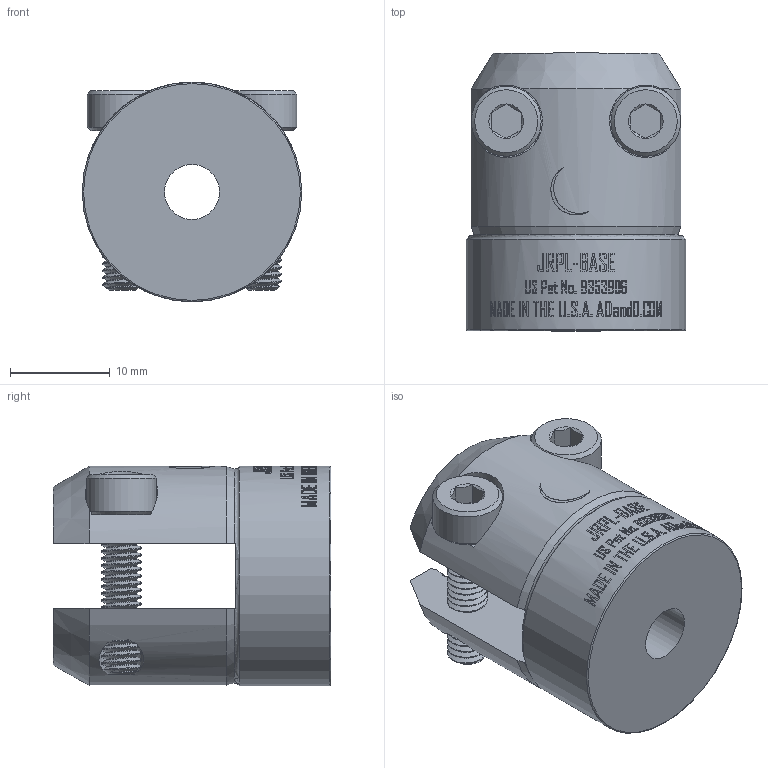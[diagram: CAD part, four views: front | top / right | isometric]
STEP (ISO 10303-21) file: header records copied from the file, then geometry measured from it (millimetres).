
FILE_DESCRIPTION(/* description */ ('JRPL BASE'),/* implementation_level */ '2;1');
FILE_NAME(/* name */ 'C:\Users\Shayne Riley\Documents\Vault\AD&D\Design Files\Pop-Link\JRPL Series Assemblies\JRPL-BASE.stp',/* time_stamp */ '2020-11-18T09:50:51-05:00',/* author */ ('Shayne Riley'),/* organization */ (''),/* preprocessor_version */ 'ST-DEVELOPER v18.1',/* originating_system */ 'Autodesk Inventor 2021',/* authorisation */ '');
FILE_SCHEMA (('AUTOMOTIVE_DESIGN { 1 0 10303 214 3 1 1 }'));
Length unit declared in the file: inch
Products named in the file (3): JRPL-BASE; 60263; 60262
Assembly tree (3 placements, depth 2):
  JRPL-BASE
    60263
    60262  x2
Bounding box: 21.96 x 27.79 x 21.96 mm (x, y, z)
Volume: 7040 mm3; surface area: 4434.2 mm2
Topology: 3 solids, 3 shells, 911 faces, 2472 edges, 1639 vertices
Faces by surface type: plane 494, bspline 193, cylinder 185, cone 25, torus 8, sphere 6
Full cylindrical faces by diameter (mm): 3.091 x44, 3.242 x2, 4 x44, 4.254 x2, 5.512 x1, 7 x2, 10.008 x1, 21.958 x1
Entity records: 34821 total; most frequent: CARTESIAN_POINT 14419, ORIENTED_EDGE 4574, DIRECTION 3633, EDGE_CURVE 2287, VERTEX_POINT 1520, LINE 1211, VECTOR 1211, AXIS2_PLACEMENT_3D 1211
